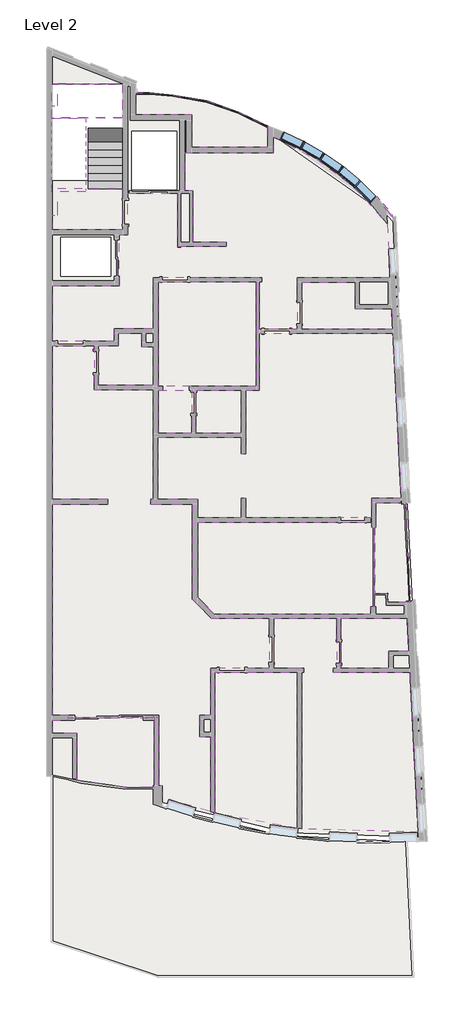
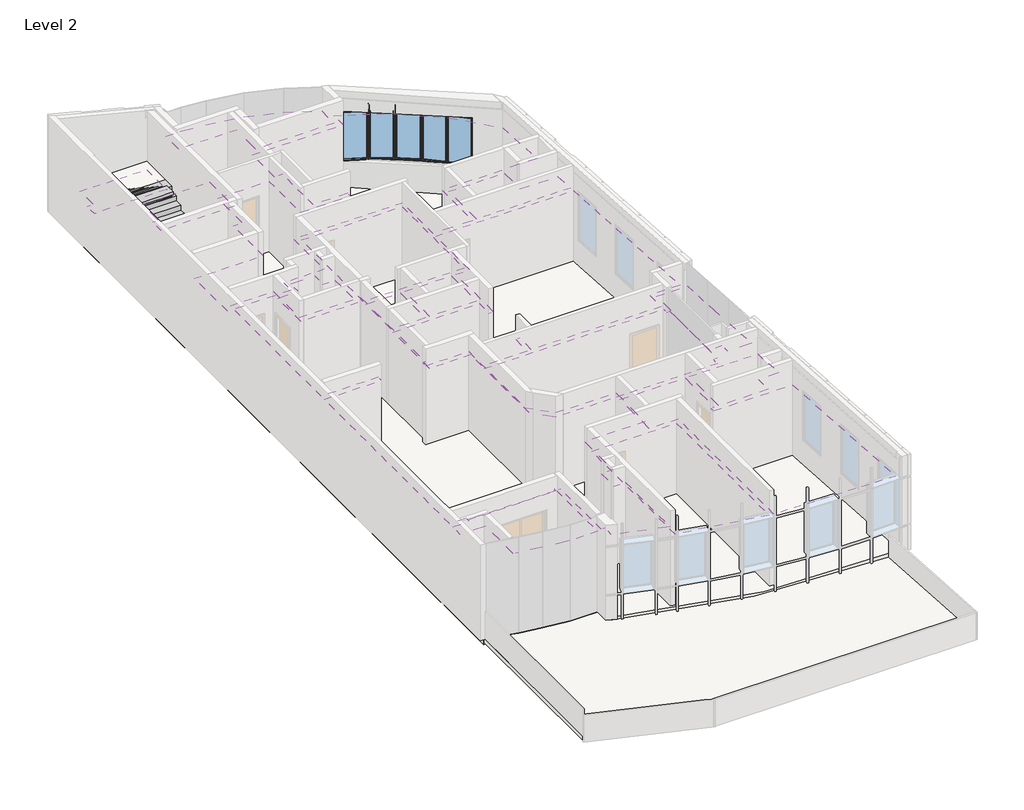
# One storey, part 5 of 5: 19 coverings, 5 windows, 3 slabs, 2 stair flights, 1 proxy.
"""IFC4 building model written with IfcOpenShell, lengths in millimetres."""

from ifc_helpers import new_model, si_unit, point, frame, frame_2d, origin, place, context, project, spatial, polyline, circle_curve, trimmed, segment, composite_curve, outline, extrude, faceted_brep, transform, mapped, element, save
from ifc_brep_helpers import plane_surface, cylinder_surface, advanced_brep
from components import m_fixed_0815_x_1830mm_2_6a11e188

model = new_model("IFC4")

# Units and contexts
model_context = context("Model", 3, world=origin())
ifc_project = project(units=[si_unit("LENGTHUNIT", "METRE", prefix="MILLI")], contexts=[model_context])

# Site, building, storey
site = spatial("IfcSite", under=ifc_project)
building = spatial("IfcBuilding", under=site)
storey = spatial("IfcBuildingStorey", under=building, Name="Level 2", Elevation=8000.0)

# Proxy
placement = place(None, origin())
element("IfcBuildingElementProxy", 1, Name="Reveal", ObjectType="Reveal", at=placement, inside=storey, context=model_context, shape_type="SweptSolid", body=[
    extrude(outline(composite_curve([segment(trimmed(circle_curve(frame_2d((4535.6080259, 3399.2748166)), 9525.0), [point((12124.5482533, 9155.45508))], [point((11527.266896, 9867.8396686))], True, "CARTESIAN"), True, "CONTINUOUS"), segment(polyline([(11527.266896, 9867.8396686), (11562.5143185, 9903.3668328)]), True, "CONTINUOUS"), segment(trimmed(circle_curve(frame_2d((4535.6080259, 3399.2748166)), 9575.0), [point((11562.5143185, 9903.3668328))], [point((12120.0590293, 9243.6505726))], False, "CARTESIAN"), True, "CONTINUOUS"), segment(polyline([(12120.0590293, 9243.6505726), (12124.5482533, 9155.45508)]), True, "CONTINUOUS")], self_intersect=False)), frame((0.0, 0.0, 10695.0), z_axis=(0.0, 0.0, 1.0), x_axis=(1.0, 0.0, 0.0)), (0.0, 0.0, 1.0), 50.0),
    extrude(outline(composite_curve([segment(trimmed(circle_curve(frame_2d((4535.6080259, 3399.2748166)), 9525.0), [point((8210.516289, 12186.8042907))], [point((7662.3072504, 12396.4619859))], True, "CARTESIAN"), True, "CONTINUOUS"), segment(polyline([(7662.3072504, 12396.4619859), (7662.3072504, 12449.3785154)]), True, "CONTINUOUS"), segment(trimmed(circle_curve(frame_2d((4535.6080259, 3399.2748166)), 9575.0), [point((7662.3072504, 12449.3785154))], [point((8231.7823405, 12232.1067767))], False, "CARTESIAN"), True, "CONTINUOUS"), segment(polyline([(8231.7823405, 12232.1067767), (8210.516289, 12186.8042907)]), True, "CONTINUOUS")], self_intersect=False)), frame((0.0, 0.0, 10695.0), z_axis=(0.0, 0.0, 1.0), x_axis=(1.0, 0.0, 0.0)), (0.0, 0.0, 1.0), 50.0),
    extrude(outline(composite_curve([segment(trimmed(circle_curve(frame_2d((4535.6080259, 3399.2748166)), 9525.0), [point((8957.9716481, 11835.4069275))], [point((8948.2742549, 11840.4833647))], True, "CARTESIAN"), True, "CONTINUOUS"), segment(polyline([(8948.2742549, 11840.4833647), (8969.5403064, 11885.7858507)]), True, "CONTINUOUS"), segment(trimmed(circle_curve(frame_2d((4535.6080259, 3399.2748166)), 9575.0), [point((8969.5403064, 11885.7858507))], [point((8983.0823429, 11878.6968016))], False, "CARTESIAN"), True, "CONTINUOUS"), segment(polyline([(8983.0823429, 11878.6968016), (8957.9716481, 11835.4069275)]), True, "CONTINUOUS")], self_intersect=False)), frame((0.0, 0.0, 10695.0), z_axis=(0.0, 0.0, 1.0), x_axis=(1.0, 0.0, 0.0)), (0.0, 0.0, 1.0), 50.0),
    extrude(outline(composite_curve([segment(trimmed(circle_curve(frame_2d((4535.6080259, 3399.2748166)), 9525.0), [point((9668.2107942, 11423.1151579))], [point((9662.9539178, 11426.4753937))], True, "CARTESIAN"), True, "CONTINUOUS"), segment(polyline([(9662.9539178, 11426.4753937), (9688.0646126, 11469.7652678)]), True, "CONTINUOUS"), segment(trimmed(circle_curve(frame_2d((4535.6080259, 3399.2748166)), 9575.0), [point((9688.0646126, 11469.7652678))], [point((9696.9570845, 11464.0811314))], False, "CARTESIAN"), True, "CONTINUOUS"), segment(polyline([(9696.9570845, 11464.0811314), (9668.2107942, 11423.1151579)]), True, "CONTINUOUS")], self_intersect=False)), frame((0.0, 0.0, 10695.0), z_axis=(0.0, 0.0, 1.0), x_axis=(1.0, 0.0, 0.0)), (0.0, 0.0, 1.0), 50.0),
    extrude(outline(composite_curve([segment(trimmed(circle_curve(frame_2d((4535.6080259, 3399.2748166)), 9525.0), [point((10340.2860207, 10951.1844014))], [point((10335.3479854, 10954.9773917))], True, "CARTESIAN"), True, "CONTINUOUS"), segment(polyline([(10335.3479854, 10954.9773917), (10364.0942756, 10995.9433652)]), True, "CONTINUOUS"), segment(trimmed(circle_curve(frame_2d((4535.6080259, 3399.2748166)), 9575.0), [point((10364.0942756, 10995.9433652))], [point((10372.454166, 10989.521989))], False, "CARTESIAN"), True, "CONTINUOUS"), segment(polyline([(10372.454166, 10989.521989), (10340.2860207, 10951.1844014)]), True, "CONTINUOUS")], self_intersect=False)), frame((0.0, 0.0, 10695.0), z_axis=(0.0, 0.0, 1.0), x_axis=(1.0, 0.0, 0.0)), (0.0, 0.0, 1.0), 50.0),
])

# Coverings
element("IfcCovering", 2, ObjectType="600 x 600mm Grid", at=placement, inside=storey, context=model_context, shape_type="SweptSolid", body=[
    extrude(outline(polyline([(3749.9578779, 6844.2927825), (7249.9578779, 6844.2927825), (7249.9578779, 3106.8778064), (3749.9578779, 3106.8778064), (3749.9578779, 6844.2927825)])), frame((0.0, 0.0, 10600.0), z_axis=(0.0, 0.0, 1.0), x_axis=(1.0, 0.0, 0.0)), (0.0, 0.0, 1.0), 52.0),
])
element("IfcCovering", 3, ObjectType="600 x 600mm Grid", at=placement, inside=storey, context=model_context, shape_type="SweptSolid", body=[
    extrude(outline(polyline([(10788.049349, 5875.0705769), (12091.2636332, 5875.0705769), (12128.2063311, 5149.2927029), (8869.9578779, 5149.2927029), (8869.9578779, 6830.3684627), (10788.049349, 6830.3684627), (10788.049349, 5875.0705769)])), frame((0.0, 0.0, 10600.0), z_axis=(0.0, 0.0, 1.0), x_axis=(1.0, 0.0, 0.0)), (0.0, 0.0, 1.0), 52.0),
])
element("IfcCovering", 4, ObjectType="600 x 600mm Grid", at=placement, inside=storey, context=model_context, shape_type="SweptSolid", body=[
    extrude(outline(composite_curve([segment(polyline([(10005.6168737, -7123.7981953), (12752.9168737, -7123.7981953), (13044.0399551, -12843.2151043)]), True, "CONTINUOUS"), segment(trimmed(circle_curve(frame_2d((11609.3245394, 10843.3737526)), 23730.0), [point((13044.0399551, -12843.2151043))], [point((8870.2907737, -12728.0198004))], False, "CARTESIAN"), True, "CONTINUOUS"), segment(polyline([(8870.2907737, -12728.0198004), (8870.2907737, -6973.7981953), (7870.2909314, -6973.7981953), (7870.2909314, -5198.7981953), (10130.2907737, -5198.7981953), (10130.2907737, -6973.7981953), (10005.6168737, -6973.7981953), (10005.6168737, -7123.7981953)]), True, "CONTINUOUS")], self_intersect=False)), frame((0.0, 0.0, 10600.0), z_axis=(0.0, 0.0, 1.0), x_axis=(1.0, 0.0, 0.0)), (0.0, 0.0, 1.0), 52.0),
])
element("IfcCovering", 5, ObjectType="600 x 600mm Grid", at=placement, inside=storey, context=model_context, shape_type="SweptSolid", body=[
    extrude(outline(polyline([(10280.2907737, -5198.7981953), (12654.9327714, -5198.7981953), (12714.7412494, -6373.7981953), (11997.4732011, -6373.7981953), (11997.4732011, -6973.7981953), (10280.2907737, -6973.7981953), (10280.2907737, -5198.7981953)])), frame((0.0, 0.0, 10600.0), z_axis=(0.0, 0.0, 1.0), x_axis=(1.0, 0.0, 0.0)), (0.0, 0.0, 1.0), 52.0),
])
element("IfcCovering", 6, ObjectType="600 x 600mm Grid", at=placement, inside=storey, context=model_context, shape_type="SweptSolid", body=[
    extrude(outline(polyline([(5089.9578779, 1426.8778064), (5089.9578779, 2956.8778064), (6719.9578779, 2956.8778064), (6719.9578779, 1426.8778064), (5089.9578779, 1426.8778064)])), frame((0.0, 0.0, 10600.0), z_axis=(0.0, 0.0, 1.0), x_axis=(1.0, 0.0, 0.0)), (0.0, 0.0, 1.0), 52.0),
])
element("IfcCovering", 7, ObjectType="600 x 600mm Grid", at=placement, inside=storey, context=model_context, shape_type="SweptSolid", body=[
    extrude(outline(polyline([(3569.9578779, 4516.8864855), (3569.9578779, 3136.8778064), (1599.9578776, 3136.8778064), (1599.9578776, 4556.8830582), (2319.9578779, 4556.8830582), (2319.9578779, 5006.8860701), (3149.9574416, 5006.8860701), (3149.9574416, 4516.8864855), (3569.9578779, 4516.8864855)])), frame((0.0, 0.0, 10600.0), z_axis=(0.0, 0.0, 1.0), x_axis=(1.0, 0.0, 0.0)), (0.0, 0.0, 1.0), 52.0),
])
element("IfcCovering", 8, ObjectType="600 x 600mm Grid", at=placement, inside=storey, context=model_context, shape_type="SweptSolid", body=[
    extrude(outline(composite_curve([segment(polyline([(11936.5482631, 8914.6155682), (12034.2942913, 6994.2927825), (10782.6929286, 6994.2927825), (10782.6929286, 6980.3684627), (8719.9578779, 6980.3684627), (8719.9578779, 5149.2927029), (7349.9578779, 5149.2927029), (7349.9578779, 6994.2927825), (3569.9578779, 6994.2927825), (3569.9578779, 5156.8860701), (2169.9578779, 5156.8860701), (2169.9578779, 4706.8830582), (-50.0421304, 4706.8830582), (-50.0421304, 6706.8748838), (2350.0654712, 6706.8748838), (2350.0654712, 8516.8748746), (2661.8607589, 8516.8748746), (2661.8607589, 10006.8748959), (4449.2779066, 10006.8748959), (4449.2779066, 8112.262158), (6174.9402277, 8112.262158), (6174.9402277, 8262.262158), (4979.9402277, 8262.262158), (4979.9402277, 10106.8748959), (4699.9587688, 10106.8748959), (4699.9587688, 11454.5991251), (7862.3072504, 11454.5991251), (7862.3072504, 12008.9189597)]), True, "CONTINUOUS"), segment(trimmed(circle_curve(frame_2d((4535.6080259, 3399.2748166)), 9230.0), [point((7862.3072504, 12008.9189597))], [point((11936.5482631, 8914.6155682))], False, "CARTESIAN"), True, "CONTINUOUS")], self_intersect=False)), frame((0.0, 0.0, 10600.0), z_axis=(0.0, 0.0, 1.0), x_axis=(1.0, 0.0, 0.0)), (0.0, 0.0, 1.0), 52.0),
])
element("IfcCovering", 9, ObjectType="600 x 600mm Grid", at=placement, inside=storey, context=model_context, shape_type="SweptSolid", body=[
    extrude(outline(composite_curve([segment(trimmed(circle_curve(frame_2d((11609.3245394, 10843.3737526)), 23730.0), [point((8720.2907737, -12710.1054788))], [point((5770.2907737, -12157.0302587))], False, "CARTESIAN"), True, "CONTINUOUS"), segment(polyline([(5770.2907737, -12157.0302587), (5770.2907737, -7123.7981953), (8720.2907737, -7123.7981953), (8720.2907737, -12710.1054788)]), True, "CONTINUOUS")], self_intersect=False)), frame((0.0, 0.0, 10600.0), z_axis=(0.0, 0.0, 1.0), x_axis=(1.0, 0.0, 0.0)), (0.0, 0.0, 1.0), 52.0),
])
element("IfcCovering", 10, ObjectType="600 x 600mm Grid", at=placement, inside=storey, context=model_context, shape_type="SweptSolid", body=[
    extrude(outline(composite_curve([segment(polyline([(-50.0421304, -8662.2362629), (-50.0421304, -1113.1221936), (1933.9578781, -1113.1221936), (1933.9578781, -933.1221936), (-50.0421304, -933.1221936), (-50.0421304, 4556.8830582), (1449.9578776, 4556.8830582), (1449.9578776, 2986.8778064), (3569.9578779, 2986.8778064), (3569.9578779, 1351.8778064), (3569.9578779, -933.1221936), (3473.9578779, -933.1221936), (3473.9578779, -1113.1221936), (4969.9578778, -1113.1221936), (4969.9578778, -4517.9715169), (5643.7897147, -5198.7981953), (7720.2909314, -5198.7981953), (7720.2909314, -6973.7981953), (5620.2907737, -6973.7981953), (5620.2907737, -8662.29082), (5223.5699518, -8662.29082), (5223.5699518, -9422.4272222), (5620.2907737, -9422.4272222), (5620.2907737, -12118.4287584)]), True, "CONTINUOUS"), segment(trimmed(circle_curve(frame_2d((11609.3245394, 10843.3737526)), 23730.0), [point((5620.2907737, -12118.4287584))], [point((3880.252741, -11592.6318887))], False, "CARTESIAN"), True, "CONTINUOUS"), segment(polyline([(3880.252741, -11592.6318887), (3880.252741, -11189.3160932), (3760.252741, -11189.3160932), (3760.252741, -8757.0181124), (3600.5670169, -8757.0181124), (3600.5670169, -8673.6141586), (3557.6788606, -8673.6141586), (3557.6788606, -8757.0181124), (529.9578696, -8757.0181124), (529.9578696, -8662.2362629), (-50.0421304, -8662.2362629)]), True, "CONTINUOUS")], self_intersect=False)), frame((0.0, 0.0, 10900.0), z_axis=(0.0, 0.0, 1.0), x_axis=(1.0, 0.0, 0.0)), (0.0, 0.0, 1.0), 52.0),
])
element("IfcCovering", 11, ObjectType="600 x 600mm Grid", at=placement, inside=storey, context=model_context, shape_type="SweptSolid", body=[
    extrude(outline(polyline([(-50.0421304, -9312.1185157), (-50.0421304, -8842.2362629), (529.9578696, -8842.2362629), (529.9578696, -8757.0181124), (3610.252741, -8757.0181124), (3610.252741, -11236.9456492), (2620.252741, -11236.9456492), (1746.4600136, -11114.1420899), (974.05092, -11005.5870712), (829.9393362, -10974.9552084), (829.9393362, -9312.1185157), (-50.0421304, -9312.1185157)])), frame((0.0, 0.0, 10900.0), z_axis=(0.0, 0.0, 1.0), x_axis=(1.0, 0.0, 0.0)), (0.0, 0.0, 1.0), 52.0),
])
element("IfcCovering", 12, ObjectType="600 x 600mm Grid", at=placement, inside=storey, context=model_context, shape_type="SweptSolid", body=[
    extrude(outline(polyline([(11529.9578778, -1933.9547288), (11529.9578778, -1053.8603265), (12594.2109056, -1053.8603265), (12655.9511875, -2266.8126319), (12714.9198118, -3425.3128267), (12776.048406, -4626.2478876), (11949.9334783, -4624.2050678), (11933.314431, -4297.7065316), (11490.9685725, -4320.222304), (11490.9685725, -1933.9547288), (11529.9578778, -1933.9547288)])), frame((0.0, 0.0, 10600.0), z_axis=(0.0, 0.0, 1.0), x_axis=(1.0, 0.0, 0.0)), (0.0, 0.0, 1.0), 52.0),
])
element("IfcCovering", 13, ObjectType="600 x 600mm Grid", at=placement, inside=storey, context=model_context, shape_type="SweptSolid", body=[
    extrude(outline(polyline([(5149.9578778, -4443.9569428), (5149.9578778, -1753.9547298), (11379.9578778, -1753.9547298), (11379.9578778, -1933.9547288), (11490.9685725, -1933.9547288), (11490.9685725, -4783.8440392), (11349.9578778, -4783.8440392), (11349.9578778, -5048.7981953), (5748.5849662, -5048.7981953), (5149.9578778, -4443.9569428)])), frame((0.0, 0.0, 10600.0), z_axis=(0.0, 0.0, 1.0), x_axis=(1.0, 0.0, 0.0)), (0.0, 0.0, 1.0), 52.0),
])
element("IfcCovering", 14, ObjectType="600 x 600mm Grid", at=placement, inside=storey, context=model_context, shape_type="SweptSolid", body=[
    extrude(outline(polyline([(7349.9578779, 2956.8778064), (7349.9578779, 4999.2927029), (12135.8414559, 4999.2927029), (12436.3168588, -903.8603265), (11379.9578778, -903.8603265), (11379.9578778, -1603.9547298), (6869.9578779, -1603.9547298), (6869.9578779, -903.9547298), (6719.9578779, -903.9547298), (6719.9578779, -1603.9547298), (5149.9578778, -1603.9547298), (5149.9578778, -933.1221936), (3719.9578779, -933.1221936), (3719.9578779, 1276.8778064), (6719.9578779, 1276.8778064), (6719.9578779, 696.0452702), (6869.9578779, 696.0452702), (6869.9578779, 2956.8778064), (7349.9578779, 2956.8778064)])), frame((0.0, 0.0, 10600.0), z_axis=(0.0, 0.0, 1.0), x_axis=(1.0, 0.0, 0.0)), (0.0, 0.0, 1.0), 52.0),
])
element("IfcCovering", 15, ObjectType="600 x 600mm Grid", at=placement, inside=storey, context=model_context, shape_type="SweptSolid", body=[
    extrude(outline(polyline([(3749.9578779, 1426.8778064), (3749.9578779, 2956.8778064), (4939.9578779, 2956.8778064), (4939.9578779, 1426.8778064), (3749.9578779, 1426.8778064)])), frame((0.0, 0.0, 10600.0), z_axis=(0.0, 0.0, 1.0), x_axis=(1.0, 0.0, 0.0)), (0.0, 0.0, 1.0), 52.0),
])
element("IfcCovering", 16, ObjectType="600 x 600mm Grid", at=placement, inside=storey, context=model_context, shape_type="SweptSolid", body=[
    extrude(outline(polyline([(7662.3072504, 12409.1006238), (7662.3072504, 11654.5991251), (4949.6116933, 11654.5991251), (4949.6116933, 12811.9409286), (2939.9587442, 12811.9409286), (2939.9587442, 13599.3570533), (3438.1784244, 13599.3570533), (4275.7806873, 13521.2545862), (5477.246146, 13309.4038095), (6630.7788082, 12912.210661), (7662.3072504, 12409.1006238)])), frame((0.0, 0.0, 10600.0), z_axis=(0.0, 0.0, 1.0), x_axis=(1.0, 0.0, 0.0)), (0.0, 0.0, 1.0), 52.0),
])
element("IfcCovering", 17, ObjectType="600 x 600mm Grid", at=placement, inside=storey, context=model_context, shape_type="SweptSolid", body=[
    extrude(outline(composite_curve([segment(polyline([(11936.5482631, 8914.6155682), (12034.2942913, 6994.2927825), (10782.6929286, 6994.2927825), (10782.6929286, 6980.3684627), (8719.9578779, 6980.3684627), (8719.9578779, 5149.2927029), (7349.9578779, 5149.2927029), (7349.9578779, 6994.2927825), (3569.9578779, 6994.2927825), (3569.9578779, 5156.8860701), (2169.9578779, 5156.8860701), (2169.9578779, 4706.8830582), (-50.0421304, 4706.8830582), (-50.0421304, 6706.8748838), (2350.0654712, 6706.8748838), (2350.0654712, 8516.8748746), (2661.8607589, 8516.8748746), (2661.8607589, 10006.8748959), (4449.2779066, 10006.8748959), (4449.2779066, 8112.262158), (6174.9402277, 8112.262158), (6174.9402277, 8262.262158), (4979.9402277, 8262.262158), (4979.9402277, 10106.8748959), (4699.9587688, 10106.8748959), (4699.9587688, 11454.5991251), (7862.3072504, 11454.5991251), (7862.3072504, 12008.9189597)]), True, "CONTINUOUS"), segment(trimmed(circle_curve(frame_2d((4535.6080259, 3399.2748166)), 9230.0), [point((7862.3072504, 12008.9189597))], [point((11936.5482631, 8914.6155682))], False, "CARTESIAN"), True, "CONTINUOUS")], self_intersect=False)), frame((0.0, 0.0, 10600.0), z_axis=(0.0, 0.0, 1.0), x_axis=(1.0, 0.0, 0.0)), (0.0, 0.0, 1.0), 52.0),
])
element("IfcCovering", 18, ObjectType="600 x 600mm Grid", at=placement, inside=storey, context=model_context, shape_type="SweptSolid", body=[
    extrude(outline(composite_curve([segment(polyline([(11936.5482631, 8914.6155682), (12034.2942913, 6994.2927825), (10782.6929286, 6994.2927825), (10782.6929286, 6980.3684627), (8719.9578779, 6980.3684627), (8719.9578779, 5149.2927029), (7349.9578779, 5149.2927029), (7349.9578779, 6994.2927825), (3569.9578779, 6994.2927825), (3569.9578779, 5156.8860701), (2169.9578779, 5156.8860701), (2169.9578779, 4706.8830582), (-50.0421304, 4706.8830582), (-50.0421304, 6706.8748838), (2350.0654712, 6706.8748838), (2350.0654712, 8516.8748746), (2661.8607589, 8516.8748746), (2661.8607589, 10006.8748959), (4449.2779066, 10006.8748959), (4449.2779066, 8112.262158), (6174.9402277, 8112.262158), (6174.9402277, 8262.262158), (4979.9402277, 8262.262158), (4979.9402277, 10106.8748959), (4699.9587688, 10106.8748959), (4699.9587688, 11454.5991251), (7862.3072504, 11454.5991251), (7862.3072504, 12008.9189597)]), True, "CONTINUOUS"), segment(trimmed(circle_curve(frame_2d((4535.6080259, 3399.2748166)), 9230.0), [point((7862.3072504, 12008.9189597))], [point((11936.5482631, 8914.6155682))], False, "CARTESIAN"), True, "CONTINUOUS")], self_intersect=False)), frame((0.0, 0.0, 10600.0), z_axis=(0.0, 0.0, 1.0), x_axis=(1.0, 0.0, 0.0)), (0.0, 0.0, 1.0), 52.0),
])
element("IfcCovering", 19, ObjectType="600 x 600mm Grid", at=placement, inside=storey, context=model_context, shape_type="SweptSolid", body=[
    extrude(outline(polyline([(2481.8607589, 10179.4957281), (2481.8607589, 8696.8748746), (-50.0421304, 8696.8748746), (-50.0421304, 9219.4957281), (149.9709975, 9219.4957281), (149.9709975, 10179.4957281), (2481.8607589, 10179.4957281)])), frame((0.0, 0.0, 11150.0), z_axis=(0.0, 0.0, 1.0), x_axis=(1.0, 0.0, 0.0)), (0.0, 0.0, 1.0), 52.0),
])
element("IfcCovering", 20, ObjectType="600 x 600mm Grid", at=placement, inside=storey, context=model_context, shape_type="SweptSolid", body=[
    extrude(outline(polyline([(2454.9743495, 13908.8107611), (2454.9743495, 12688.8107611), (2439.3607589, 12688.8107611), (2439.3607589, 12708.2107611), (-17.3392411, 12708.2107611), (-17.3392411, 12688.8107611), (-60.0421304, 12688.8107611), (-60.0421304, 13143.419171), (149.9709975, 13143.419171), (149.9709975, 13943.419171), (2454.9743495, 13908.8107611)])), frame((0.0, 0.0, 9350.0), z_axis=(0.0, 0.0, 1.0), x_axis=(1.0, 0.0, 0.0)), (0.0, 0.0, 1.0), 52.0),
])

# Slabs
element("IfcSlab", 21, ObjectType="220mm Thickness", at=placement, inside=storey, context=model_context, shape_type="Brep", body=[
    faceted_brep([(2454.9743495, 13908.8107611, 9657.8947368), (-60.0421304, 13908.8107611, 9657.8947368), (-60.0421304, 12688.8107611, 9657.8947368), (1159.9578696, 12688.8107611, 9657.8947368), (1233.3868495, 12688.8107611, 9657.8947368), (1233.3868495, 12798.8107611, 9657.8947368), (2454.9743495, 12798.8107611, 9657.8947368), (2454.9743495, 13908.8107611, 9437.8947368), (2454.9743495, 12798.8107611, 9547.8947368), (2454.9743495, 12698.8107611, 9547.8947368), (2454.9743495, 12698.8107611, 9437.8947368), (-60.0421304, 13908.8107611, 9437.8947368), (-60.0421304, 12688.8107611, 9437.8947368), (1159.9578696, 12688.8107611, 9437.8947368), (1233.3868495, 12688.8107611, 9437.8947368), (1233.3868495, 12698.8107611, 9437.8947368), (1233.3868495, 12798.8107611, 9547.8947368), (1233.3868495, 12698.8107611, 9547.8947368)], [[[0, 1, 2, 3, 4, 5, 6]], [[7, 0, 6, 8, 9, 10]], [[1, 0, 7, 11]], [[2, 1, 11, 12]], [[3, 2, 12, 13]], [[3, 13, 14, 4]], [[11, 7, 10, 15, 14, 13, 12]], [[16, 17, 9, 8]], [[5, 16, 8, 6]], [[16, 5, 4, 14, 15, 17]], [[9, 17, 15, 10]]]),
])
element("IfcSlab", 22, ObjectType="Generic 150mm", at=placement, inside=storey, context=model_context, shape_type="SweptSolid", body=[
    extrude(outline(composite_curve([segment(polyline([(12826.1361627, -17965.5937279), (3715.1070409, -17965.5937279), (-80.0000039, -16715.6411245), (-80.0000039, -10806.5889755), (962.8076532, -11085.5870712), (1735.2167469, -11194.1420899), (2609.0094742, -11316.9456492), (3189.4823188, -11316.9456492), (3680.252741, -11316.9456492), (3680.252741, -11861.9077598)]), True, "CONTINUOUS"), segment(trimmed(circle_curve(frame_2d((11601.6179912, 10714.0909676)), 23925.3787006), [point((3680.252741, -11861.9077598))], [point((12583.0369828, -13191.1503558))], True, "CARTESIAN"), True, "CONTINUOUS"), segment(polyline([(12583.0369828, -13191.1503558), (12826.1361627, -17965.5937279)]), True, "CONTINUOUS")], self_intersect=False)), frame((0.0, 0.0, 7850.0), z_axis=(0.0, 0.0, 1.0), x_axis=(1.0, 0.0, 0.0)), (0.0, 0.0, 1.0), 150.0),
])
element("IfcSlab", 23, ObjectType="Standard Timber-Wood Finish", at=placement, inside=storey, context=model_context, shape_type="AdvancedBrep", body=[
    advanced_brep(
    [(-80.0000039, 14947.4914079, 7759.0), (2787.012328, 13820.7480851, 7759.0), (2839.9587442, 13599.3570533, 7759.0), (3438.1784244, 13599.3570533, 7759.0), (4275.7806873, 13521.2545862, 7759.0), (5477.246146, 13309.4038095, 7759.0), (6630.7788082, 12912.210661, 7759.0), (7755.9578778, 12363.4241608, 7759.0), (7776.052508, 12255.0311117, 7759.0), (12133.2206563, 8985.0766676, 7759.0), (13253.8091512, -13030.0543708, 7759.0), (12576.6197107, -13067.068234, 7759.0), (12256.7467377, -13077.8666574, 7759.0), (3707.0437467, -11744.2081958, 7759.0), (3680.252741, -11726.9456492, 7759.0), (3680.252741, -11236.9456492, 7759.0), (2620.252741, -11236.9456492, 7759.0), (1746.4600136, -11114.1420899, 7759.0), (974.05092, -11005.5870712, 7759.0), (-50.0000039, -10787.9183278, 7759.0), (-80.0000039, -10781.541631, 7759.0), (-80.0000039, 14915.2577927, 7759.0), (2476.8607589, 13901.5570443, 7759.0), (-50.0000039, 13901.5570443, 7759.0), (-50.0000039, 10481.5722364, 7759.0), (2476.8607589, 10481.5722364, 7759.0), (4400.153558, 12231.9409286, 7759.0), (2800.0008657, 12231.9409286, 7759.0), (2800.0008657, 10131.7405588, 7759.0), (4400.153558, 10131.7405588, 7759.0), (2050.0008632, 8431.9409233, 7759.0), (250.2948674, 8431.9409233, 7759.0), (250.2948674, 7031.9409165, 7759.0), (2050.0008632, 7031.9409165, 7759.0), (-80.0000039, 14947.4914079, 8000.0), (-80.0000039, -10781.541631, 8000.0), (974.05092, -11005.5870712, 8000.0), (1746.4600136, -11114.1420899, 8000.0), (2620.252741, -11236.9456492, 8000.0), (3680.252741, -11236.9456492, 8000.0), (3680.252741, -11726.9456492, 8000.0), (3707.0437467, -11744.2081958, 8000.0), (13253.8091512, -13030.0543708, 8000.0), (12133.2206563, 8985.0766676, 8000.0), (7776.052508, 12255.0311117, 8000.0), (7755.9578778, 12363.4241608, 8000.0), (6630.7788082, 12912.210661, 8000.0), (5477.246146, 13309.4038095, 8000.0), (4275.7806873, 13521.2545862, 8000.0), (3438.1784244, 13599.3570533, 8000.0), (2839.9587442, 13599.3570533, 8000.0), (2787.012328, 13820.7480851, 8000.0), (2476.8607589, 13901.5570443, 8000.0), (2476.8607589, 10481.5722364, 8000.0), (-50.0000039, 10481.5722364, 8000.0), (-50.0000039, 13901.5570443, 8000.0), (4400.153558, 12231.9409286, 8000.0), (4400.153558, 10131.7405588, 8000.0), (2800.0008657, 10131.7405588, 8000.0), (2800.0008657, 12231.9409286, 8000.0), (2050.0008632, 8431.9409233, 8000.0), (2050.0008632, 7031.9409165, 8000.0), (250.2948674, 7031.9409165, 8000.0), (250.2948674, 8431.9409233, 8000.0), (-80.0000039, -10781.541631, 7850.0)],
    [
        (0, 1),
        (1, 2),
        (2, 3),
        (3, 4),
        (4, 5),
        (5, 6),
        (6, 7),
        (7, 8),
        (8, 9, circle_curve(frame((4535.6080259, 3399.2748166, 7759.0), z_axis=(0.0, 0.0, -1.0), x_axis=(1.0, 0.0, 0.0)), 9430.0)),
        (9, 10),
        (10, 11, circle_curve(frame((11609.3245394, 10843.3737526, 7759.0), z_axis=(0.0, 0.0, -1.0), x_axis=(1.0, 0.0, 0.0)), 23930.0)),
        (11, 12, circle_curve(frame((11609.3245394, 10843.3737526, 7759.0), z_axis=(0.0, 0.0, -1.0), x_axis=(1.0, 0.0, 0.0)), 23929.9999152)),
        (12, 13, circle_curve(frame((11609.3245394, 10843.3737526, 7759.0), z_axis=(0.0, 0.0, -1.0), x_axis=(1.0, 0.0, 0.0)), 23929.9999636)),
        (13, 14),
        (14, 15),
        (15, 16),
        (16, 17),
        (17, 18),
        (18, 19),
        (19, 20),
        (20, 21),
        (21, 0),
        (22, 23),
        (23, 24),
        (24, 25),
        (25, 22),
        (26, 27),
        (27, 28),
        (28, 29),
        (29, 26),
        (30, 31),
        (31, 32),
        (32, 33),
        (33, 30),
        (34, 35),
        (35, 36),
        (36, 37),
        (37, 38),
        (38, 39),
        (39, 40),
        (40, 41),
        (41, 42, circle_curve(frame((11609.3245394, 10843.3737526, 8000.0), z_axis=(0.0, 0.0, 1.0), x_axis=(1.0, 0.0, 0.0)), 23930.0)),
        (42, 43),
        (43, 44, circle_curve(frame((4535.6080259, 3399.2748166, 8000.0), z_axis=(0.0, 0.0, 1.0), x_axis=(1.0, 0.0, 0.0)), 9430.0)),
        (44, 45),
        (45, 46),
        (46, 47),
        (47, 48),
        (48, 49),
        (49, 50),
        (50, 51),
        (51, 34),
        (52, 53),
        (53, 54),
        (54, 55),
        (55, 52),
        (56, 57),
        (57, 58),
        (58, 59),
        (59, 56),
        (60, 61),
        (61, 62),
        (62, 63),
        (63, 60),
        (20, 64),
        (64, 35),
        (34, 0),
        (51, 1),
        (22, 52),
        (55, 23),
        (54, 24),
        (53, 25),
        (26, 56),
        (59, 27),
        (58, 28),
        (57, 29),
        (30, 60),
        (63, 31),
        (62, 32),
        (61, 33),
        (50, 2),
        (49, 3),
        (48, 4),
        (47, 5),
        (46, 6),
        (45, 7),
        (44, 8),
        (43, 9),
        (42, 10),
        (41, 13),
        (40, 14),
        (39, 15),
        (38, 16),
        (37, 17),
        (36, 18),
    ],
    [
        plane_surface(frame((-80.0000039, 14947.4914079, 7759.0), z_axis=(0.0, 0.0, -1.0000000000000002), x_axis=(0.9307054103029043, -0.3657696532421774, 0.0))),
        plane_surface(frame((-80.0000039, 14947.4914079, 8000.0), z_axis=(0.0, 0.0, 1.0000000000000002), x_axis=(-0.9307054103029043, 0.3657696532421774, 0.0))),
        plane_surface(frame((-80.0000039, -10781.541631, 7759.0), z_axis=(-1.0, 0.0, 0.0), x_axis=(0.0, 0.0, 1.0))),
        plane_surface(frame((-80.0000039, 14947.4914079, 7759.0), z_axis=(0.3657696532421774, 0.9307054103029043, 0.0), x_axis=(0.0, 0.0, 1.0))),
        plane_surface(frame((2476.8607589, 13901.5570443, 7759.0), z_axis=(0.0, -1.0, 0.0), x_axis=(0.0, 0.0, 1.0))),
        plane_surface(frame((-50.0000039, 13901.5570443, 7759.0), z_axis=(1.0, 0.0, 0.0), x_axis=(0.0, 0.0, 1.0))),
        plane_surface(frame((-50.0000039, 10481.5722364, 7759.0), z_axis=(0.0, 1.0, 0.0), x_axis=(0.0, 0.0, 1.0))),
        plane_surface(frame((2476.8607589, 10481.5722364, 7759.0), z_axis=(-1.0, 0.0, 0.0), x_axis=(0.0, 0.0, 1.0))),
        plane_surface(frame((4400.153558, 12231.9409286, 7759.0), z_axis=(0.0, -1.0, 0.0), x_axis=(0.0, 0.0, 1.0))),
        plane_surface(frame((2800.0008657, 12231.9409286, 7759.0), z_axis=(1.0, 0.0, 0.0), x_axis=(0.0, 0.0, 1.0))),
        plane_surface(frame((2800.0008657, 10131.7405588, 7759.0), z_axis=(0.0, 1.0, 0.0), x_axis=(0.0, 0.0, 1.0))),
        plane_surface(frame((4400.153558, 10131.7405588, 7759.0), z_axis=(-1.0, 0.0, 0.0), x_axis=(0.0, 0.0, 1.0))),
        plane_surface(frame((2050.0008632, 8431.9409233, 7759.0), z_axis=(0.0, -1.0, 0.0), x_axis=(0.0, 0.0, 1.0))),
        plane_surface(frame((250.2948674, 8431.9409233, 7759.0), z_axis=(1.0, 0.0, 0.0), x_axis=(0.0, 0.0, 1.0))),
        plane_surface(frame((250.2948674, 7031.9409165, 7759.0), z_axis=(0.0, 1.0, 0.0), x_axis=(0.0, 0.0, 1.0))),
        plane_surface(frame((2050.0008632, 7031.9409165, 7759.0), z_axis=(-1.0, 0.0, 0.0), x_axis=(0.0, 0.0, 1.0))),
        plane_surface(frame((2787.012328, 13820.7480851, 7759.0), z_axis=(0.9725738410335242, 0.2325943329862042, 0.0), x_axis=(0.0, 0.0, 1.0))),
        plane_surface(frame((2839.9587442, 13599.3570533, 7759.0), z_axis=(0.0, 1.0, 0.0), x_axis=(0.0, 0.0, 1.0))),
        plane_surface(frame((3438.1784244, 13599.3570533, 7759.0), z_axis=(0.0928425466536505, 0.9956808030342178, 0.0), x_axis=(0.0, 0.0, 1.0))),
        plane_surface(frame((4275.7806873, 13521.2545862, 7759.0), z_axis=(0.17364817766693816, 0.9848077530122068, 0.0), x_axis=(0.0, 0.0, 1.0))),
        plane_surface(frame((5477.246146, 13309.4038095, 7759.0), z_axis=(0.3255681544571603, 0.9455185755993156, 0.0), x_axis=(0.0, 0.0, 1.0))),
        plane_surface(frame((6630.7788082, 12912.210661, 7759.0), z_axis=(0.43837114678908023, 0.8987940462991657, 0.0), x_axis=(0.0, 0.0, 1.0))),
        plane_surface(frame((7755.9578778, 12363.4241608, 7759.0), z_axis=(0.9832465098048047, 0.1822808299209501, 0.0), x_axis=(0.0, 0.0, 1.0))),
        cylinder_surface(frame((4535.6080259, 3399.2748166, 8000.0), z_axis=(0.0, 0.0, -1.0), x_axis=(1.0, 0.0, 0.0)), 9430.0),
        plane_surface(frame((12133.2206563, 8985.0766676, 7759.0), z_axis=(0.9987070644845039, 0.050835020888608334, 0.0), x_axis=(0.0, 0.0, 1.0))),
        cylinder_surface(frame((11609.3245394, 10843.3737526, 8000.0), z_axis=(0.0, 0.0, -1.0), x_axis=(1.0, 0.0, 0.0)), 23930.0),
        plane_surface(frame((3707.0437467, -11744.2081958, 7759.0), z_axis=(-0.541639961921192, -0.8406105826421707, 0.0), x_axis=(0.0, 0.0, 1.0))),
        plane_surface(frame((3680.252741, -11726.9456492, 7759.0), z_axis=(-1.0, 0.0, 0.0), x_axis=(0.0, 0.0, 1.0))),
        plane_surface(frame((3680.252741, -11236.9456492, 7759.0), z_axis=(0.0, -1.0, 0.0), x_axis=(0.0, 0.0, 1.0))),
        plane_surface(frame((2620.252741, -11236.9456492, 7759.0), z_axis=(-0.13917310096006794, -0.99026806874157, 0.0), x_axis=(0.0, 0.0, 1.0))),
        plane_surface(frame((1746.4600136, -11114.1420899, 7759.0), z_axis=(-0.13917310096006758, -0.99026806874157, 0.0), x_axis=(0.0, 0.0, 1.0))),
        plane_surface(frame((974.05092, -11005.5870712, 7759.0), z_axis=(-0.20791169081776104, -0.9781476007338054, 0.0), x_axis=(0.0, 0.0, 1.0))),
    ],
    [
        (0, [[1, 2, 3, 4, 5, 6, 7, 8, 9, 10, 11, 12, 13, 14, 15, 16, 17, 18, 19, 20, 21, 22], [23, 24, 25, 26], [27, 28, 29, 30], [31, 32, 33, 34]]),
        (1, [[35, 36, 37, 38, 39, 40, 41, 42, 43, 44, 45, 46, 47, 48, 49, 50, 51, 52], [53, 54, 55, 56], [57, 58, 59, 60], [61, 62, 63, 64]]),
        (2, [[-22, -21, 65, 66, -35, 67]]),
        (3, [[-1, -67, -52, 68]]),
        (4, [[-23, 69, -56, 70]]),
        (5, [[-24, -70, -55, 71]]),
        (6, [[-25, -71, -54, 72]]),
        (7, [[-26, -72, -53, -69]]),
        (8, [[-27, 73, -60, 74]]),
        (9, [[-28, -74, -59, 75]]),
        (10, [[-29, -75, -58, 76]]),
        (11, [[-30, -76, -57, -73]]),
        (12, [[-31, 77, -64, 78]]),
        (13, [[-32, -78, -63, 79]]),
        (14, [[-33, -79, -62, 80]]),
        (15, [[-34, -80, -61, -77]]),
        (16, [[-2, -68, -51, 81]]),
        (17, [[-3, -81, -50, 82]]),
        (18, [[-4, -82, -49, 83]]),
        (19, [[-5, -83, -48, 84]]),
        (20, [[-6, -84, -47, 85]]),
        (21, [[-7, -85, -46, 86]]),
        (22, [[-8, -86, -45, 87]]),
        (23, [[-9, -87, -44, 88]]),
        (24, [[-10, -88, -43, 89]]),
        (25, [[-13, -12, -11, -89, -42, 90]]),
        (26, [[-14, -90, -41, 91]]),
        (27, [[-15, -91, -40, 92]]),
        (28, [[-16, -92, -39, 93]]),
        (29, [[-17, -93, -38, 94]]),
        (30, [[-18, -94, -37, 95]]),
        (31, [[-20, -19, -95, -36, -66, -65]]),
    ],
),
])

# Stair flights
element("IfcStairFlight", 24, ObjectType="190mm Depth", at=placement, inside=storey, context=model_context, shape_type="Brep", body=[
    faceted_brep([(1234.9743495, 10448.8107611, 8184.2105263), (1234.9743495, 10168.8107611, 8184.2105263), (2454.9743495, 10168.8107611, 8184.2105263), (2454.9743495, 10448.8107611, 8184.2105263), (1234.9743495, 10448.8107611, 8000.0), (1234.9743495, 10168.8107611, 8000.0), (2454.9743495, 10168.8107611, 8000.0), (2454.9743495, 10448.8107611, 8000.0), (1234.9743495, 10728.8107611, 8368.4210526), (1234.9743495, 10448.8107611, 8368.4210526), (2454.9743495, 10448.8107611, 8368.4210526), (2454.9743495, 10728.8107611, 8368.4210526), (1234.9743495, 10728.8107611, 8140.9897443), (1234.9743495, 10514.5063497, 8000.0), (2454.9743495, 10514.5063497, 8000.0), (2454.9743495, 10728.8107611, 8140.9897443), (1234.9743495, 11008.8107611, 8552.6315789), (1234.9743495, 10728.8107611, 8552.6315789), (2454.9743495, 10728.8107611, 8552.6315789), (2454.9743495, 11008.8107611, 8552.6315789), (1234.9743495, 11008.8107611, 8325.2002706), (2454.9743495, 11008.8107611, 8325.2002706), (1234.9743495, 11288.8107611, 8736.8421053), (1234.9743495, 11008.8107611, 8736.8421053), (2454.9743495, 11008.8107611, 8736.8421053), (2454.9743495, 11288.8107611, 8736.8421053), (1234.9743495, 11288.8107611, 8509.410797), (2454.9743495, 11288.8107611, 8509.410797), (1234.9743495, 11568.8107611, 8921.0526316), (1234.9743495, 11288.8107611, 8921.0526316), (2454.9743495, 11288.8107611, 8921.0526316), (2454.9743495, 11568.8107611, 8921.0526316), (1234.9743495, 11568.8107611, 8693.6213233), (2454.9743495, 11568.8107611, 8693.6213233), (1234.9743495, 11848.8107611, 9105.2631579), (1234.9743495, 11568.8107611, 9105.2631579), (2454.9743495, 11568.8107611, 9105.2631579), (2454.9743495, 11848.8107611, 9105.2631579), (1234.9743495, 11848.8107611, 8877.8318496), (2454.9743495, 11848.8107611, 8877.8318496), (1234.9743495, 12128.8107611, 9289.4736842), (1234.9743495, 11848.8107611, 9289.4736842), (2454.9743495, 11848.8107611, 9289.4736842), (2454.9743495, 12128.8107611, 9289.4736842), (1234.9743495, 12128.8107611, 9062.0423759), (2454.9743495, 12128.8107611, 9062.0423759), (1234.9743495, 12408.8107611, 9473.6842105), (1234.9743495, 12128.8107611, 9473.6842105), (2454.9743495, 12128.8107611, 9473.6842105), (2454.9743495, 12408.8107611, 9473.6842105), (1234.9743495, 12408.8107611, 9246.2529022), (2454.9743495, 12408.8107611, 9246.2529022), (1234.9743495, 12408.8107611, 9657.8947368), (2454.9743495, 12408.8107611, 9657.8947368), (2454.9743495, 12788.8107611, 9657.8947368), (1234.9743495, 12788.8107611, 9657.8947368), (1234.9743495, 12788.8107611, 9557.8947368), (1234.9743495, 12688.8107611, 9557.8947368), (1234.9743495, 12688.8107611, 9430.4634285), (2454.9743495, 12688.8107611, 9430.4634285), (2454.9743495, 12688.8107611, 9557.8947368), (2454.9743495, 12788.8107611, 9557.8947368)], [[[0, 1, 2, 3]], [[1, 0, 4, 5]], [[2, 1, 5, 6]], [[3, 2, 6, 7]], [[8, 9, 10, 11]], [[4, 0, 9, 8, 12, 13]], [[0, 3, 10, 9]], [[3, 7, 14, 15, 11, 10]], [[16, 17, 18, 19]], [[17, 16, 20, 12, 8]], [[8, 11, 18, 17]], [[19, 18, 11, 15, 21]], [[22, 23, 24, 25]], [[23, 22, 26, 20, 16]], [[16, 19, 24, 23]], [[25, 24, 19, 21, 27]], [[28, 29, 30, 31]], [[29, 28, 32, 26, 22]], [[22, 25, 30, 29]], [[31, 30, 25, 27, 33]], [[34, 35, 36, 37]], [[35, 34, 38, 32, 28]], [[28, 31, 36, 35]], [[37, 36, 31, 33, 39]], [[40, 41, 42, 43]], [[41, 40, 44, 38, 34]], [[34, 37, 42, 41]], [[43, 42, 37, 39, 45]], [[46, 47, 48, 49]], [[47, 46, 50, 44, 40]], [[40, 43, 48, 47]], [[49, 48, 43, 45, 51]], [[52, 53, 54, 55]], [[52, 55, 56, 57, 58, 50, 46]], [[46, 49, 53, 52]], [[54, 53, 49, 51, 59, 60, 61]], [[58, 57, 60, 59]], [[5, 4, 13, 14, 7, 6]], [[14, 13, 12, 20, 26, 32, 38, 44, 50, 58, 59, 51, 45, 39, 33, 27, 21, 15]], [[61, 60, 57, 56]], [[61, 56, 55, 54]]]),
])
element("IfcStairFlight", 25, ObjectType="190mm Depth", at=placement, inside=storey, context=model_context, shape_type="Brep", body=[
    faceted_brep([(1159.9578696, 12688.8107611, 9842.1052632), (-60.0421304, 12688.8107611, 9842.1052632), (-60.0421304, 12677.5151724, 9842.1052632), (-60.0421304, 12408.8107611, 9842.1052632), (1159.9578696, 12408.8107611, 9842.1052632), (1159.9578696, 12677.5151724, 9842.1052632), (1159.9578696, 12408.8107611, 9614.6739548), (1159.9578696, 12677.5151724, 9437.8947368), (1159.9578696, 12688.8107611, 9437.8947368), (-60.0421304, 12688.8107611, 9437.8947368), (-60.0421304, 12677.5151724, 9437.8947368), (-60.0421304, 12408.8107611, 9614.6739548), (1159.9578696, 12128.8107611, 10026.3157895), (1159.9578696, 12408.8107611, 10026.3157895), (-60.0421304, 12408.8107611, 10026.3157895), (-60.0421304, 12128.8107611, 10026.3157895), (1159.9578696, 12128.8107611, 9798.8844812), (-60.0421304, 12128.8107611, 9798.8844812), (1159.9578696, 11848.8107611, 10210.5263158), (1159.9578696, 12128.8107611, 10210.5263158), (-60.0421304, 12128.8107611, 10210.5263158), (-60.0421304, 11848.8107611, 10210.5263158), (1159.9578696, 11848.8107611, 9983.0950075), (-60.0421304, 11848.8107611, 9983.0950075), (1159.9578696, 11568.8107611, 10394.7368421), (1159.9578696, 11848.8107611, 10394.7368421), (-60.0421304, 11848.8107611, 10394.7368421), (-60.0421304, 11568.8107611, 10394.7368421), (1159.9578696, 11568.8107611, 10167.3055338), (-60.0421304, 11568.8107611, 10167.3055338), (1159.9578696, 11288.8107611, 10578.9473684), (1159.9578696, 11568.8107611, 10578.9473684), (-60.0421304, 11568.8107611, 10578.9473684), (-60.0421304, 11288.8107611, 10578.9473684), (1159.9578696, 11288.8107611, 10351.5160601), (-60.0421304, 11288.8107611, 10351.5160601), (1159.9578696, 11008.8107611, 10763.1578947), (1159.9578696, 11288.8107611, 10763.1578947), (-60.0421304, 11288.8107611, 10763.1578947), (-60.0421304, 11008.8107611, 10763.1578947), (1159.9578696, 11008.8107611, 10535.7265864), (-60.0421304, 11008.8107611, 10535.7265864), (1159.9578696, 10728.8107611, 10947.3684211), (1159.9578696, 11008.8107611, 10947.3684211), (-60.0421304, 11008.8107611, 10947.3684211), (-60.0421304, 10728.8107611, 10947.3684211), (1159.9578696, 10728.8107611, 10719.9371127), (-60.0421304, 10728.8107611, 10719.9371127), (1159.9578696, 10448.8107611, 11131.5789474), (1159.9578696, 10728.8107611, 11131.5789474), (-60.0421304, 10728.8107611, 11131.5789474), (-60.0421304, 10448.8107611, 11131.5789474), (1159.9578696, 10448.8107611, 10904.1476391), (-60.0421304, 10448.8107611, 10904.1476391), (1159.9578696, 10448.8107611, 11315.7894737), (-60.0421304, 10448.8107611, 11315.7894737), (-60.0421304, 10068.8107611, 11315.7894737), (1159.9578696, 10068.8107611, 11315.7894737), (1159.9578696, 10068.8107611, 11215.7894737), (1159.9578696, 10168.8107611, 11215.7894737), (1159.9578696, 10168.8107611, 11088.3581654), (-60.0421304, 10168.8107611, 11088.3581654), (-60.0421304, 10168.8107611, 11215.7894737), (-60.0421304, 10068.8107611, 11215.7894737)], [[[0, 1, 2, 3, 4, 5]], [[4, 6, 7, 8, 0, 5]], [[1, 0, 8, 9]], [[1, 9, 10, 11, 3, 2]], [[12, 13, 14, 15]], [[13, 12, 16, 6, 4]], [[14, 13, 4, 3]], [[15, 14, 3, 11, 17]], [[18, 19, 20, 21]], [[19, 18, 22, 16, 12]], [[20, 19, 12, 15]], [[21, 20, 15, 17, 23]], [[24, 25, 26, 27]], [[25, 24, 28, 22, 18]], [[26, 25, 18, 21]], [[27, 26, 21, 23, 29]], [[30, 31, 32, 33]], [[31, 30, 34, 28, 24]], [[32, 31, 24, 27]], [[33, 32, 27, 29, 35]], [[36, 37, 38, 39]], [[37, 36, 40, 34, 30]], [[38, 37, 30, 33]], [[39, 38, 33, 35, 41]], [[42, 43, 44, 45]], [[43, 42, 46, 40, 36]], [[44, 43, 36, 39]], [[45, 44, 39, 41, 47]], [[48, 49, 50, 51]], [[49, 48, 52, 46, 42]], [[50, 49, 42, 45]], [[51, 50, 45, 47, 53]], [[54, 55, 56, 57]], [[54, 57, 58, 59, 60, 52, 48]], [[55, 54, 48, 51]], [[56, 55, 51, 53, 61, 62, 63]], [[61, 60, 59, 62]], [[10, 7, 6, 16, 22, 28, 34, 40, 46, 52, 60, 61, 53, 47, 41, 35, 29, 23, 17, 11]], [[7, 10, 9, 8]], [[63, 62, 59, 58]], [[63, 58, 57, 56]]]),
])

# Windows
m_fixed_0815_x_1830mm_2_shape = m_fixed_0815_x_1830mm_2_6a11e188(model_context)
element("IfcWindow", 26, ObjectType="M_Fixed : 0815 x 1830mm 2", at=placement, inside=storey, context=model_context, shape_type="MappedRepresentation", body=[
    mapped(m_fixed_0815_x_1830mm_2_shape, transform((11152.0749385, 10068.2534159, 8595.0), x_axis=(-0.7098961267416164, 0.7043063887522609, 0.0), y_axis=(-0.7043063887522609, -0.7098961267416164, 0.0), z_axis=(0.0, 0.0, 1.0))),
])
element("IfcWindow", 27, ObjectType="M_Fixed : 0815 x 1830mm 2", at=placement, inside=storey, context=model_context, shape_type="MappedRepresentation", body=[
    mapped(m_fixed_0815_x_1830mm_2_shape, transform((10574.0486821, 10595.8117897, 8595.0), x_axis=(-0.7660533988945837, 0.6427769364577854, 0.0), y_axis=(-0.6427769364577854, -0.7660533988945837, 0.0), z_axis=(0.0, 0.0, 1.0))),
])
element("IfcWindow", 28, ObjectType="M_Fixed : 0815 x 1830mm 2", at=placement, inside=storey, context=model_context, shape_type="MappedRepresentation", body=[
    mapped(m_fixed_0815_x_1830mm_2_shape, transform((9931.7154506, 11089.1990441, 8595.0), x_axis=(-0.8185732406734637, 0.5744021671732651, 0.0), y_axis=(-0.5744021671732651, -0.8185732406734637, 0.0), z_axis=(0.0, 0.0, 1.0))),
])
element("IfcWindow", 29, ObjectType="M_Fixed : 0815 x 1830mm 2", at=placement, inside=storey, context=model_context, shape_type="MappedRepresentation", body=[
    mapped(m_fixed_0815_x_1830mm_2_shape, transform((9249.2599573, 11525.4298381, 8595.0), x_axis=(-0.8650089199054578, 0.5017564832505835, 0.0), y_axis=(-0.5017564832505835, -0.8650089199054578, 0.0), z_axis=(0.0, 0.0, 1.0))),
])
element("IfcWindow", 30, ObjectType="M_Fixed : 0815 x 1830mm 2", at=placement, inside=storey, context=model_context, shape_type="MappedRepresentation", body=[
    mapped(m_fixed_0815_x_1830mm_2_shape, transform((8527.5630763, 11903.2271236, 8595.0), x_axis=(-0.9052244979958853, 0.4249336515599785, 0.0), y_axis=(-0.4249336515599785, -0.9052244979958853, 0.0), z_axis=(0.0, 0.0, 1.0))),
])

save(model, "model.ifc")
